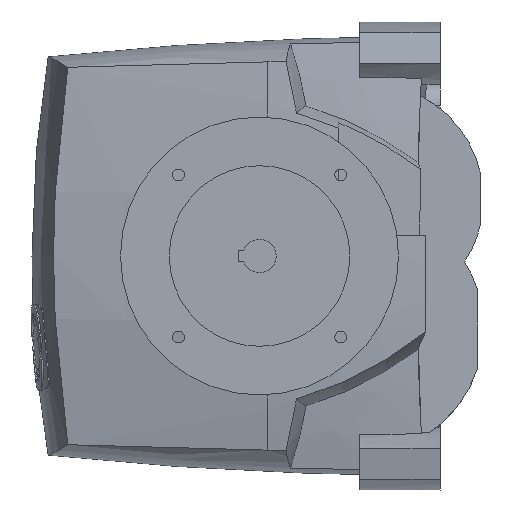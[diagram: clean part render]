
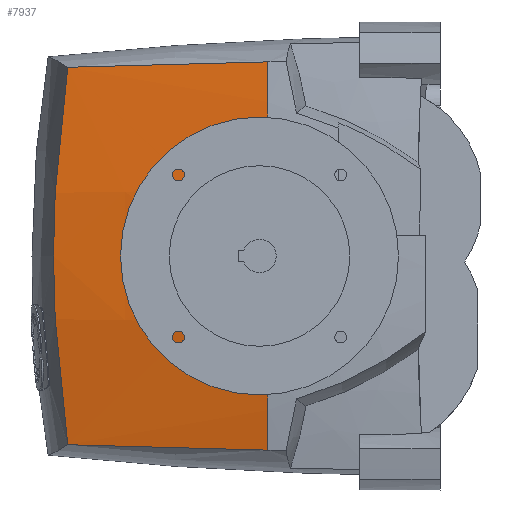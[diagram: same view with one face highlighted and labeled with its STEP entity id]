
A CAD part, left-side view. The second image highlights one B-rep face of the part: STEP entity #7937.
In plain terms, the highlighted free-form (B-spline) face has degree [3, 3] with [4, 4] control points.
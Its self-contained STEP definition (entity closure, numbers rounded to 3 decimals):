
#414=CARTESIAN_POINT('',(-123.775,210.93,44.928));
#415=CARTESIAN_POINT('',(-124.023,212.734,35.054));
#416=CARTESIAN_POINT('',(-124.362,215.151,15.089));
#417=CARTESIAN_POINT('',(-124.362,215.151,-15.089));
#418=CARTESIAN_POINT('',(-124.023,212.734,-35.055));
#419=CARTESIAN_POINT('',(-123.775,210.93,-44.928));
#421=CARTESIAN_POINT('',(-123.775,210.93,-44.928));
#422=CARTESIAN_POINT('',(-123.763,210.84,-45.421));
#423=CARTESIAN_POINT('',(-123.757,210.509,-46.381));
#424=CARTESIAN_POINT('',(-123.807,209.61,-47.603));
#425=CARTESIAN_POINT('',(-123.912,208.387,-48.506));
#426=CARTESIAN_POINT('',(-124.013,207.425,-48.839));
#427=CARTESIAN_POINT('',(-124.07,206.928,-48.93));
#429=CARTESIAN_POINT('',(-124.07,206.928,-48.93));
#430=CARTESIAN_POINT('',(-124.705,201.333,-49.952));
#431=CARTESIAN_POINT('',(-125.977,190.07,-51.615));
#432=CARTESIAN_POINT('',(-127.886,173.026,-52.952));
#433=CARTESIAN_POINT('',(-129.156,161.62,-53.065));
#434=CARTESIAN_POINT('',(-129.789,155.918,-52.926));
#436=CARTESIAN_POINT('',(-129.789,155.918,52.926));
#437=CARTESIAN_POINT('',(-129.156,161.62,53.065));
#438=CARTESIAN_POINT('',(-127.886,173.027,52.952));
#439=CARTESIAN_POINT('',(-125.977,190.069,51.615));
#440=CARTESIAN_POINT('',(-124.705,201.334,49.952));
#441=CARTESIAN_POINT('',(-124.07,206.927,48.93));
#443=CARTESIAN_POINT('',(-124.07,206.927,48.93));
#444=CARTESIAN_POINT('',(-124.013,207.424,48.839));
#445=CARTESIAN_POINT('',(-123.912,208.388,48.505));
#446=CARTESIAN_POINT('',(-123.807,209.611,47.603));
#447=CARTESIAN_POINT('',(-123.757,210.51,46.378));
#448=CARTESIAN_POINT('',(-123.763,210.84,45.42));
#449=CARTESIAN_POINT('',(-123.775,210.93,44.928));
#496=CARTESIAN_POINT('',(816.429,155.918,0.));
#497=DIRECTION('',(0.,1.,0.));
#498=DIRECTION('',(-0.989,0.,-0.147));
#499=AXIS2_PLACEMENT_3D('',#496,#497,#498);
#553=CARTESIAN_POINT('',(816.429,155.918,0.));
#554=DIRECTION('',(0.,1.,0.));
#555=DIRECTION('',(-0.998,0.,0.056));
#556=AXIS2_PLACEMENT_3D('',#553,#554,#555);
#633=CARTESIAN_POINT('',(-120.92,155.92,139.665));
#634=CARTESIAN_POINT('',(-119.119,172.099,139.731));
#635=CARTESIAN_POINT('',(-115.372,204.343,139.532));
#636=CARTESIAN_POINT('',(-109.32,252.378,138.235));
#637=CARTESIAN_POINT('',(-105.007,284.152,136.714));
#638=CARTESIAN_POINT('',(-102.783,299.978,135.787));
#878=CARTESIAN_POINT('',(-102.783,299.978,-135.787));
#879=CARTESIAN_POINT('',(-105.007,284.152,-136.714));
#880=CARTESIAN_POINT('',(-109.32,252.378,-138.235));
#881=CARTESIAN_POINT('',(-115.372,204.343,-139.532));
#882=CARTESIAN_POINT('',(-119.119,172.099,-139.731));
#883=CARTESIAN_POINT('',(-120.92,155.92,-139.666));
#1132=CARTESIAN_POINT('',(-102.783,299.978,135.787));
#1133=CARTESIAN_POINT('',(-105.054,302.5,117.868));
#1134=CARTESIAN_POINT('',(-108.656,306.837,81.881));
#1135=CARTESIAN_POINT('',(-111.34,310.396,27.347));
#1136=CARTESIAN_POINT('',(-111.34,310.396,
-27.349));
#1137=CARTESIAN_POINT('',(-108.656,306.837,
-81.882));
#1138=CARTESIAN_POINT('',(-105.054,302.5,
-117.868));
#1139=CARTESIAN_POINT('',(-102.783,299.978,
-135.787));
#6045=CARTESIAN_POINT('',(-123.775,210.93,44.928));
#6046=VERTEX_POINT('',#6045);
#6049=CARTESIAN_POINT('',(-123.775,210.93,
-44.928));
#6050=VERTEX_POINT('',#6049);
#6053=VERTEX_POINT('',#429);
#6054=VERTEX_POINT('',#434);
#6074=CARTESIAN_POINT('',(-124.07,206.927,48.93));
#6075=VERTEX_POINT('',#6074);
#6076=VERTEX_POINT('',#878);
#6077=VERTEX_POINT('',#883);
#6078=VERTEX_POINT('',#633);
#6079=VERTEX_POINT('',#638);
#6080=VERTEX_POINT('',#436);
#7902=CARTESIAN_POINT('',(-120.325,152.821,
-145.814));
#7903=CARTESIAN_POINT('',(-114.562,206.504,
-144.917));
#7904=CARTESIAN_POINT('',(-107.69,260.053,
-143.847));
#7905=CARTESIAN_POINT('',(-99.714,313.444,
-142.606));
#7906=CARTESIAN_POINT('',(-135.396,152.821,
-48.993));
#7907=CARTESIAN_POINT('',(-129.54,206.504,
-48.692));
#7908=CARTESIAN_POINT('',(-122.558,260.053,
-48.332));
#7909=CARTESIAN_POINT('',(-114.453,313.444,
-47.915));
#7910=CARTESIAN_POINT('',(-135.396,152.821,48.993));
#7911=CARTESIAN_POINT('',(-129.54,206.504,48.692));
#7912=CARTESIAN_POINT('',(-122.558,260.053,48.333));
#7913=CARTESIAN_POINT('',(-114.453,313.444,47.915));
#7914=CARTESIAN_POINT('',(-120.325,152.821,145.814));
#7915=CARTESIAN_POINT('',(-114.562,206.504,144.917));
#7916=CARTESIAN_POINT('',(-107.69,260.053,143.847));
#7917=CARTESIAN_POINT('',(-99.714,313.444,142.606));
#7918=(BOUNDED_SURFACE()B_SPLINE_SURFACE(3,3,((#7902,#7903,#7904,#7905),(#7906,
#7907,#7908,#7909),(#7910,#7911,#7912,#7913),(#7914,#7915,#7916,#7917)),
.UNSPECIFIED.,.F.,.F.,.F.)B_SPLINE_SURFACE_WITH_KNOTS((4,4),(4,4),(0.,1.),(
0.,1.),.UNSPECIFIED.)GEOMETRIC_REPRESENTATION_ITEM()RATIONAL_B_SPLINE_SURFACE(((1.006,1.006,1.006,1.006),(
0.998,0.998,0.998,0.998),(
0.998,0.998,0.998,0.998),(
1.006,1.006,1.006,1.006)))REPRESENTATION_ITEM('')SURFACE());
#7919=ORIENTED_EDGE('',*,*,#7614,.T.);
#7920=ORIENTED_EDGE('',*,*,#7629,.T.);
#7922=ORIENTED_EDGE('',*,*,#7921,.T.);
#7924=ORIENTED_EDGE('',*,*,#7923,.F.);
#7926=ORIENTED_EDGE('',*,*,#7925,.F.);
#7928=ORIENTED_EDGE('',*,*,#7927,.F.);
#7930=ORIENTED_EDGE('',*,*,#7929,.F.);
#7932=ORIENTED_EDGE('',*,*,#7931,.F.);
#7933=ORIENTED_EDGE('',*,*,#7893,.T.);
#7934=ORIENTED_EDGE('',*,*,#7597,.T.);
#7935=EDGE_LOOP('',(#7919,#7920,#7922,#7924,#7926,#7928,#7930,#7932,#7933,
#7934));
#7936=FACE_OUTER_BOUND('',#7935,.F.);
#7937=ADVANCED_FACE('',(#7936),#7918,.T.);
#420=B_SPLINE_CURVE_WITH_KNOTS('',3,(#414,#415,#416,#417,#418,#419),
.UNSPECIFIED.,.F.,.F.,(4,1,1,4),(0.,0.333,0.667,1.),
.UNSPECIFIED.);
#428=B_SPLINE_CURVE_WITH_KNOTS('',3,(#421,#422,#423,#424,#425,#426,#427),
.UNSPECIFIED.,.F.,.F.,(4,1,1,1,4),(0.,0.25,0.5,0.75,1.),
.UNSPECIFIED.);
#435=B_SPLINE_CURVE_WITH_KNOTS('',3,(#429,#430,#431,#432,#433,#434),
.UNSPECIFIED.,.F.,.F.,(4,1,1,4),(0.,0.333,0.667,1.),
.UNSPECIFIED.);
#442=B_SPLINE_CURVE_WITH_KNOTS('',3,(#436,#437,#438,#439,#440,#441),
.UNSPECIFIED.,.F.,.F.,(4,1,1,4),(0.,0.333,0.667,1.),
.UNSPECIFIED.);
#450=B_SPLINE_CURVE_WITH_KNOTS('',3,(#443,#444,#445,#446,#447,#448,#449),
.UNSPECIFIED.,.F.,.F.,(4,1,1,1,4),(0.,0.25,0.5,0.75,1.),
.UNSPECIFIED.);
#500=CIRCLE('',#499,947.697);
#557=CIRCLE('',#556,947.697);
#639=B_SPLINE_CURVE_WITH_KNOTS('',3,(#633,#634,#635,#636,#637,#638),
.UNSPECIFIED.,.F.,.F.,(4,1,1,4),(0.,0.333,0.667,1.),
.UNSPECIFIED.);
#884=B_SPLINE_CURVE_WITH_KNOTS('',3,(#878,#879,#880,#881,#882,#883),
.UNSPECIFIED.,.F.,.F.,(4,1,1,4),(0.,0.333,0.667,1.),
.UNSPECIFIED.);
#1140=B_SPLINE_CURVE_WITH_KNOTS('',3,(#1132,#1133,#1134,#1135,#1136,#1137,#1138,
#1139),.UNSPECIFIED.,.F.,.F.,(4,1,1,1,1,4),(0.,0.2,0.4,0.6,0.8,1.),
.UNSPECIFIED.);
#7597=EDGE_CURVE('',#6075,#6046,#450,.T.);
#7614=EDGE_CURVE('',#6046,#6050,#420,.T.);
#7629=EDGE_CURVE('',#6050,#6053,#428,.T.);
#7893=EDGE_CURVE('',#6080,#6075,#442,.T.);
#7921=EDGE_CURVE('',#6053,#6054,#435,.T.);
#7923=EDGE_CURVE('',#6077,#6054,#500,.T.);
#7925=EDGE_CURVE('',#6076,#6077,#884,.T.);
#7927=EDGE_CURVE('',#6079,#6076,#1140,.T.);
#7929=EDGE_CURVE('',#6078,#6079,#639,.T.);
#7931=EDGE_CURVE('',#6080,#6078,#557,.T.);
